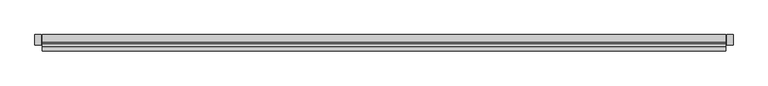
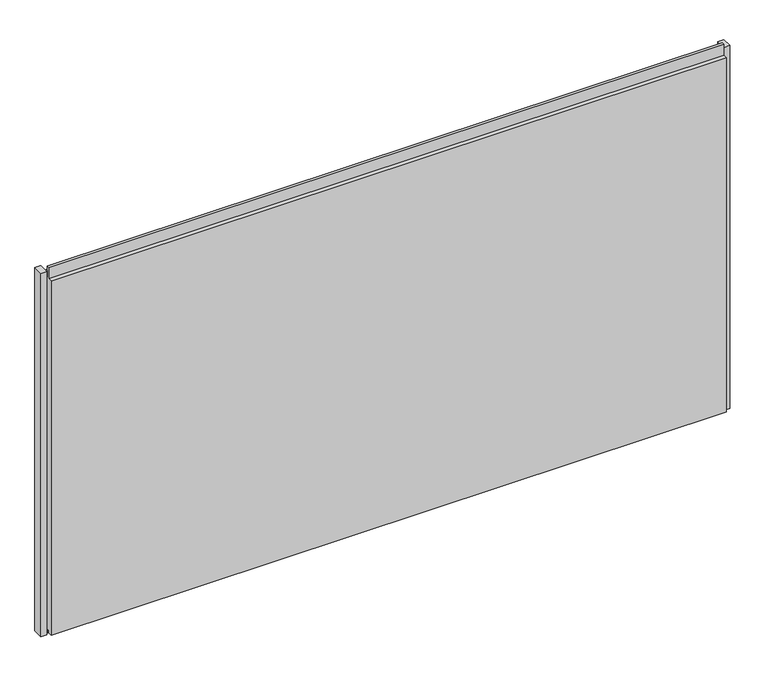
"""IFC4 building model written with IfcOpenShell, lengths in millimetres: plate geometry, Trimo_Qbiss Screen_Normal Panel-HORIZONTAL : HR - B-F."""

from ifc_helpers import new_model, si_unit, frame, origin, place, context, project, spatial, polyline, outline, extrude, source, transform, mapped, element, save


def plate_7b624472(model_context):
    return source(origin(), model_context, "Body", "SweptSolid", [
        extrude(outline(polyline([(-1056.75, 112.8978162), (-1075.75, 112.8978162), (-1075.75, 145.0), (-1056.75, 145.0), (-1056.75, 112.8978162)])), frame((0.0, 0.0, -1.0), z_axis=(0.0, 0.0, 1.0), x_axis=(1.0, 0.0, 0.0)), (0.0, 0.0, 1.0), 1200.0),
        extrude(outline(polyline([(1075.75, 112.8978162), (1056.75, 112.8978162), (1056.75, 145.0), (1075.75, 145.0), (1075.75, 112.8978162)])), frame((0.0, 0.0, -1.0), z_axis=(0.0, 0.0, 1.0), x_axis=(1.0, 0.0, 0.0)), (0.0, 0.0, 1.0), 1200.0),
        extrude(outline(polyline([(1053.75, 121.0), (1053.75, 116.0), (-1053.75, 116.0), (-1053.75, 121.0), (1053.75, 121.0)])), frame((0.0, 0.0, 1178.0), z_axis=(0.0, 0.0, 1.0), x_axis=(1.0, 0.0, 0.0)), (0.0, 0.0, 1.0), 21.0),
        extrude(outline(polyline([(116.0, 1177.0), (145.0, 1177.0), (145.0, 0.0), (117.0, 0.0), (117.0, 15.5), (107.0, 15.5), (107.0, 7.0), (95.0, 7.0), (95.0, 1177.0), (108.0, 1177.0), (108.0, 1214.5), (116.0, 1214.5), (116.0, 1177.0)])), frame((-1053.75, 0.0, 0.0), z_axis=(1.0, 0.0, 0.0), x_axis=(0.0, 1.0, 0.0)), (0.0, 0.0, 1.0), 2107.5),
    ])


if __name__ == "__main__":
    model = new_model("IFC4")
    model_context = context("Model", 3, world=origin())
    ifc_project = project(units=[si_unit("LENGTHUNIT", "METRE", prefix="MILLI")], contexts=[model_context])
    site = spatial("IfcSite", under=ifc_project)
    building = spatial("IfcBuilding", under=site)
    placement = place(None, origin())
    plate_shape = plate_7b624472(model_context)
    element("IfcPlate", 1, ObjectType="Trimo_Qbiss Screen_Normal Panel-HORIZONTAL : HR - B-F", at=placement, inside=building, context=model_context, shape_type="MappedRepresentation", body=[
        mapped(plate_shape, transform((0.0, 0.0, 0.0), x_axis=(1.0, 0.0, 0.0), y_axis=(0.0, 1.0, 0.0), z_axis=(0.0, 0.0, 1.0))),
    ])
    save(model, "model.ifc")
